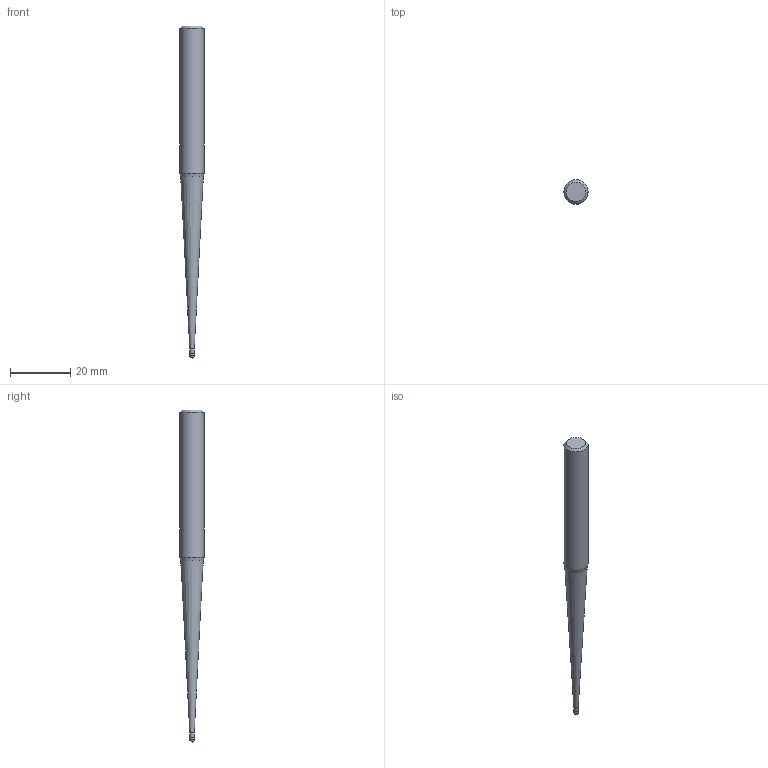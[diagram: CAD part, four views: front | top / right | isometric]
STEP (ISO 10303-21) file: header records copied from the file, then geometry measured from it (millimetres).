
FILE_DESCRIPTION((''),'2;1');
FILE_NAME('C:\Users\nsx150\AppData\Local\Temp\Mastercam 2021\SNAKH10GOD\TEMP.step','2021-10-21T13:33:03',(''),(''),'STEP Write','Mastercam 2021 ... CNC Software, Inc.','');
FILE_SCHEMA(('AUTOMOTIVE_DESIGN'));
Length unit declared in the file: millimetre
Products named in the file (1): None
Bounding box: 8 x 8 x 110 mm (x, y, z)
Volume: 3537.7 mm3; surface area: 2114.4 mm2
Topology: 2 solids, 2 shells, 10 faces, 16 edges, 9 vertices
Faces by surface type: plane 3, cylinder 3, cone 3, sphere 1
Full cylindrical faces by diameter (mm): 1.485 x1, 1.5 x1, 8 x1
Entity records: 232 total; most frequent: DIRECTION 40, CARTESIAN_POINT 28, AXIS2_PLACEMENT_3D 20, ORIENTED_EDGE 16, EDGE_LOOP 16, STYLED_ITEM 13, ADVANCED_FACE 10, FACE_BOUND 9
